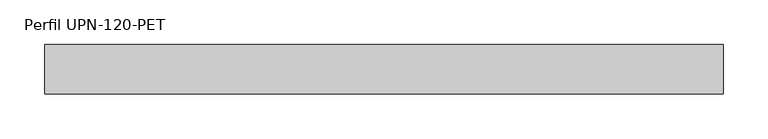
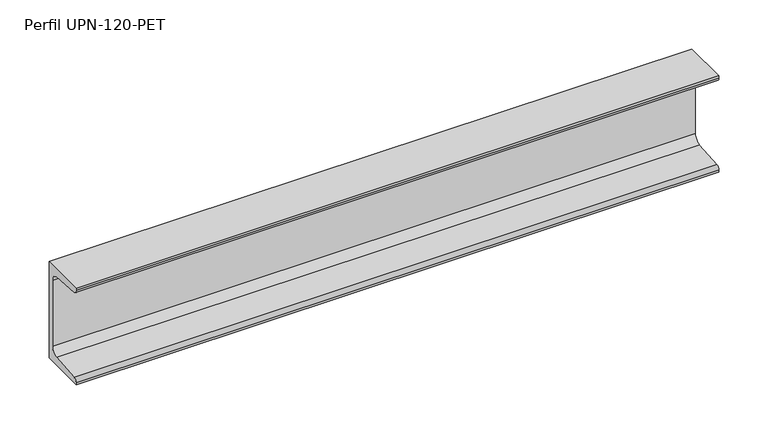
"""IFC4 building model written with IfcOpenShell, lengths in millimetres: beam geometry, ARES-I-AC-UPN-Perfil acero-PET : Perfil UPN-120-PET."""

import ifcopenshell
import ifcopenshell.guid

model = None  # the IFC model being written
_history = None  # IfcOwnerHistory: only IFC2X3 demands one
_inside = {}  # id of a spatial element -> (the spatial element, [elements in it])
_under = {}  # id of a project, library or spatial element -> (it, [spatial elements below it])
_declared = {}  # id of a project -> (the project, [libraries it declares])
_typed = {}  # id of a type object -> (the type object, [elements of that type])
_made_of = {}  # id of a material, layer set ... -> (it, [elements and type objects made of it])


def new_model(schema):
    """Start an empty IFC model of exactly this schema.

    Asked for "IFC4X3", IfcOpenShell would pick the latest addendum, in which some entities
    have other attributes; the version numbers below select the first issue.
    IFC2X3 requires an IfcOwnerHistory on every rooted entity: one is made here for all.
    """
    global model, _history
    if schema == "IFC4X3":
        model = ifcopenshell.file(schema_version=(4, 3, 0, 0))
    else:
        model = ifcopenshell.file(schema=schema)
    _inside.clear()
    _under.clear()
    _declared.clear()
    _typed.clear()
    _made_of.clear()
    _history = None
    if model.schema == "IFC2X3":
        org = make("IfcOrganization", Name="unknown")
        user = make(
            "IfcPersonAndOrganization",
            ThePerson=make("IfcPerson", FamilyName="unknown"),
            TheOrganization=org,
        )
        app = make(
            "IfcApplication",
            ApplicationDeveloper=org,
            Version="unknown",
            ApplicationFullName="unknown",
            ApplicationIdentifier="unknown",
        )
        _history = make(
            "IfcOwnerHistory",
            OwningUser=user,
            OwningApplication=app,
            ChangeAction="ADDED",
            CreationDate=0,
        )
    return model


def make(cls, **values):
    """One entity of the class cls with the attributes given. An attribute that is None is left unset."""
    return model.create_entity(
        cls, **{name: value for name, value in values.items() if value is not None}
    )


def rooted(cls, **values):
    """An entity with a GlobalId (a new one), such as an element, a storey or a relation."""
    return make(cls, GlobalId=ifcopenshell.guid.new(), OwnerHistory=_history, **values)


def si_unit(unit_type, name, prefix=None):
    """IfcSIUnit, for example si_unit("LENGTHUNIT", "METRE", prefix="MILLI")."""
    return make("IfcSIUnit", UnitType=unit_type, Prefix=prefix, Name=name)


def assignment(units):
    """IfcUnitAssignment: the units of a project."""
    return None if units is None else make("IfcUnitAssignment", Units=units)


def point(xyz):
    """IfcCartesianPoint."""
    return None if xyz is None else make("IfcCartesianPoint", Coordinates=xyz)


def direction(xyz):
    """IfcDirection."""
    return None if xyz is None else make("IfcDirection", DirectionRatios=xyz)


def frame(location, z_axis=None, x_axis=None):
    """IfcAxis2Placement3D, a coordinate frame: its origin and axes. An axis left out is left unset."""
    return make(
        "IfcAxis2Placement3D",
        Location=point(location),
        Axis=direction(z_axis),
        RefDirection=direction(x_axis),
    )


def frame_2d(location, x_axis=None):
    """IfcAxis2Placement2D, a coordinate frame in the plane: its origin and x axis."""
    return make(
        "IfcAxis2Placement2D", Location=point(location), RefDirection=direction(x_axis)
    )


def origin():
    """The frame at (0, 0, 0) with its axes left unset."""
    return frame((0.0, 0.0, 0.0))


def place(relative_to, where):
    """IfcLocalPlacement: puts the frame where relative to a parent placement (None: the world)."""
    return make(
        "IfcLocalPlacement", PlacementRelTo=relative_to, RelativePlacement=where
    )


def context(
    kind, dimensions, precision=None, world=None, true_north=None, identifier=None
):
    """IfcGeometricRepresentationContext, for example the 3D "Model" context."""
    return make(
        "IfcGeometricRepresentationContext",
        ContextIdentifier=identifier,
        ContextType=kind,
        CoordinateSpaceDimension=dimensions,
        Precision=precision,
        WorldCoordinateSystem=world,
        TrueNorth=true_north,
    )


def project(units=None, contexts=None):
    """IfcProject with its units and contexts."""
    return rooted(
        "IfcProject",
        Name="project",
        RepresentationContexts=contexts,
        UnitsInContext=assignment(units),
    )


def spatial(cls, under=None, at=None, **own):
    """A site, building, storey or space (cls), placed at a placement, below another one or the project."""
    s = rooted(cls, ObjectPlacement=at, **own)
    if under is not None:
        _under.setdefault(under.id(), (under, []))[1].append(s)
    return s


def polyline(points):
    """IfcPolyline through the points."""
    return make("IfcPolyline", Points=[point(p) for p in points])


def circle_curve(where, radius):
    """IfcCircle in the frame where."""
    return make("IfcCircle", Position=where, Radius=radius)


def trimmed(basis, trim1, trim2, sense, master):
    """IfcTrimmedCurve: the piece of a basis curve between two trims."""
    return make(
        "IfcTrimmedCurve",
        BasisCurve=basis,
        Trim1=trim1,
        Trim2=trim2,
        SenseAgreement=sense,
        MasterRepresentation=master,
    )


def segment(curve, same_sense, transition):
    """IfcCompositeCurveSegment."""
    return make(
        "IfcCompositeCurveSegment",
        Transition=transition,
        SameSense=same_sense,
        ParentCurve=curve,
    )


def composite_curve(segments, self_intersect=None):
    """IfcCompositeCurve: segments joined end to end."""
    return make("IfcCompositeCurve", Segments=segments, SelfIntersect=self_intersect)


def outline(outer, holes=None, kind="AREA"):
    """IfcArbitraryClosedProfileDef: a profile drawn as a closed curve; with holes, ...WithVoids."""
    if holes is None:
        return make("IfcArbitraryClosedProfileDef", ProfileType=kind, OuterCurve=outer)
    return make(
        "IfcArbitraryProfileDefWithVoids",
        ProfileType=kind,
        OuterCurve=outer,
        InnerCurves=holes,
    )


def extrude(swept, where, along, depth):
    """IfcExtrudedAreaSolid: the profile swept, set in the frame where, extruded along a direction by depth."""
    return make(
        "IfcExtrudedAreaSolid",
        SweptArea=swept,
        Position=where,
        ExtrudedDirection=direction(along),
        Depth=depth,
    )


def shape(context_of_items, identifier, shape_type, items):
    """IfcShapeRepresentation: the items that make up one representation, for example the "Body"."""
    return make(
        "IfcShapeRepresentation",
        ContextOfItems=context_of_items,
        RepresentationIdentifier=identifier,
        RepresentationType=shape_type,
        Items=items,
    )


def source(mapping_origin, context_of_items, identifier, shape_type, items):
    """IfcRepresentationMap: a shape defined once, which mapped items show again and again."""
    return make(
        "IfcRepresentationMap",
        MappingOrigin=mapping_origin,
        MappedRepresentation=shape(context_of_items, identifier, shape_type, items),
    )


def transform(
    local_origin,
    x_axis=None,
    y_axis=None,
    z_axis=None,
    scale=None,
    scale2=None,
    scale3=None,
    uniform=True,
):
    """IfcCartesianTransformationOperator3D, or its non-uniform kind. x_axis, y_axis, z_axis: its Axis1, 2, 3."""
    if uniform:
        return make(
            "IfcCartesianTransformationOperator3D",
            Axis1=direction(x_axis),
            Axis2=direction(y_axis),
            LocalOrigin=point(local_origin),
            Scale=scale,
            Axis3=direction(z_axis),
        )
    return make(
        "IfcCartesianTransformationOperator3DnonUniform",
        Axis1=direction(x_axis),
        Axis2=direction(y_axis),
        LocalOrigin=point(local_origin),
        Scale=scale,
        Axis3=direction(z_axis),
        Scale2=scale2,
        Scale3=scale3,
    )


def mapped(mapping_source, mapping_target):
    """IfcMappedItem: shows the shape of a source again, moved by a transform."""
    return make(
        "IfcMappedItem", MappingSource=mapping_source, MappingTarget=mapping_target
    )


def made_of(thing, what):
    """Note that an element or type object is made of a material, layer set ...; save() writes the relation."""
    if what is not None:
        _made_of.setdefault(what.id(), (what, []))[1].append(thing)
    return thing


def element(
    cls,
    number,
    at=None,
    inside=None,
    cuts=None,
    type_object=None,
    material=None,
    context=None,
    identifier="Body",
    shape_type=None,
    held_by="IfcProductDefinitionShape",
    body=None,
    shapes=None,
    **own,
):
    """One element of the class cls, such as IfcWall. Its Tag is "e" and its number.

    at: its placement. inside: the storey or other place that contains it. cuts: it is an
    opening in that element (IfcRelVoidsElement). A single representation is given by context,
    identifier, shape_type and body (its items); several are given by shapes. held_by: the class
    of the entity that holds the representations. save() writes the other relations.
    """
    e = rooted(cls, Tag="e%d" % number, ObjectPlacement=at, **own)
    if body is not None:
        shapes = [shape(context, identifier, shape_type, body)]
    if shapes is not None:
        e.Representation = make(held_by, Representations=shapes)
    if inside is not None:
        _inside.setdefault(inside.id(), (inside, []))[1].append(e)
    if cuts is not None:
        rooted(
            "IfcRelVoidsElement", RelatingBuildingElement=cuts, RelatedOpeningElement=e
        )
    if type_object is not None:
        _typed.setdefault(type_object.id(), (type_object, []))[1].append(e)
    return made_of(e, material)


def aggregate(whole, parts):
    """IfcRelAggregates: a whole, such as a stair, and the parts it consists of."""
    return rooted("IfcRelAggregates", RelatingObject=whole, RelatedObjects=parts)


def save(model, path):
    """Write the relations noted so far, then the file.

    IfcRelAggregates (storeys below a building ...), IfcRelContainedInSpatialStructure (elements
    in a storey), IfcRelDefinesByType, IfcRelAssociatesMaterial and IfcRelDeclares: one each for
    every whole, place, type object, material and project.
    """
    for whole, parts in _under.values():
        aggregate(whole, parts)
    for where, things in _inside.values():
        rooted(
            "IfcRelContainedInSpatialStructure",
            RelatedElements=things,
            RelatingStructure=where,
        )
    for kind, things in _typed.values():
        rooted("IfcRelDefinesByType", RelatedObjects=things, RelatingType=kind)
    for what, things in _made_of.values():
        rooted("IfcRelAssociatesMaterial", RelatedObjects=things, RelatingMaterial=what)
    for by, libraries in _declared.values():
        rooted("IfcRelDeclares", RelatingContext=by, RelatedDefinitions=libraries)
    model.write(path)


def perfil_upn_120_pet_55000a03(model_context):
    return source(origin(), model_context, "Body", "SweptSolid", [
        extrude(outline(composite_curve([segment(polyline([(16.0, 60.0), (16.0, -60.0), (-39.0, -60.0), (-39.0, -57.354377)]), True, "CONTINUOUS"), segment(trimmed(circle_curve(frame_2d((-34.5, -57.354377)), 4.5), [point((-39.0, -57.354377))], [point((-34.8588535, -52.8687083))], False, "CARTESIAN"), True, "CONTINUOUS"), segment(polyline([(-34.8588535, -52.8687083), (0.717707, -50.0225834)]), True, "CONTINUOUS"), segment(trimmed(circle_curve(frame_2d((0.0, -41.0512459)), 9.0), [point((0.717707, -50.0225834))], [point((9.0, -41.0512459))], True, "CARTESIAN"), True, "CONTINUOUS"), segment(polyline([(9.0, -41.0512459), (9.0, 41.0512459)]), True, "CONTINUOUS"), segment(trimmed(circle_curve(frame_2d((0.0, 41.0512459)), 9.0), [point((9.0, 41.0512459))], [point((0.717707, 50.0225834))], True, "CARTESIAN"), True, "CONTINUOUS"), segment(polyline([(0.717707, 50.0225834), (-34.8588535, 52.8687083)]), True, "CONTINUOUS"), segment(trimmed(circle_curve(frame_2d((-34.5, 57.354377)), 4.5), [point((-34.8588535, 52.8687083))], [point((-39.0, 57.354377))], False, "CARTESIAN"), True, "CONTINUOUS"), segment(polyline([(-39.0, 57.354377), (-39.0, 60.0), (16.0, 60.0)]), True, "CONTINUOUS")], self_intersect=False)), frame((-378.0, 0.0, 0.0), z_axis=(1.0, 0.0, 0.0), x_axis=(0.0, 1.0, 0.0)), (0.0, 0.0, 1.0), 756.0),
    ])


if __name__ == "__main__":
    model = new_model("IFC4")
    model_context = context("Model", 3, world=origin())
    ifc_project = project(units=[si_unit("LENGTHUNIT", "METRE", prefix="MILLI")], contexts=[model_context])
    site = spatial("IfcSite", under=ifc_project)
    building = spatial("IfcBuilding", under=site)
    placement = place(None, origin())
    perfil_upn_120_pet_shape = perfil_upn_120_pet_55000a03(model_context)
    element("IfcBeam", 1, ObjectType="ARES-I-AC-UPN-Perfil acero-PET : Perfil UPN-120-PET", at=placement, inside=building, context=model_context, shape_type="MappedRepresentation", body=[
        mapped(perfil_upn_120_pet_shape, transform((0.0, 0.0, 0.0), x_axis=(1.0, 0.0, 0.0), y_axis=(0.0, 1.0, 0.0), z_axis=(0.0, 0.0, 1.0))),
    ])
    save(model, "model.ifc")
